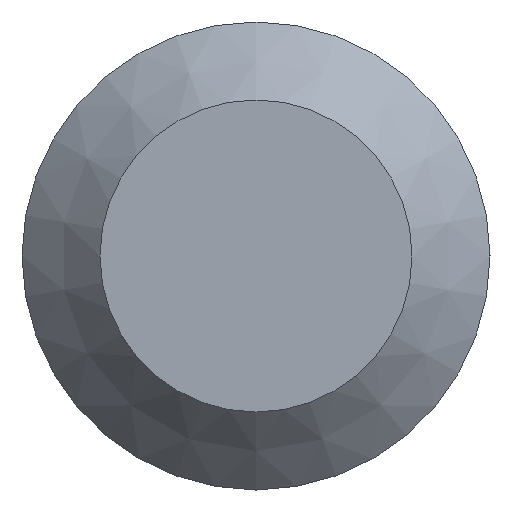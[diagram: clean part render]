
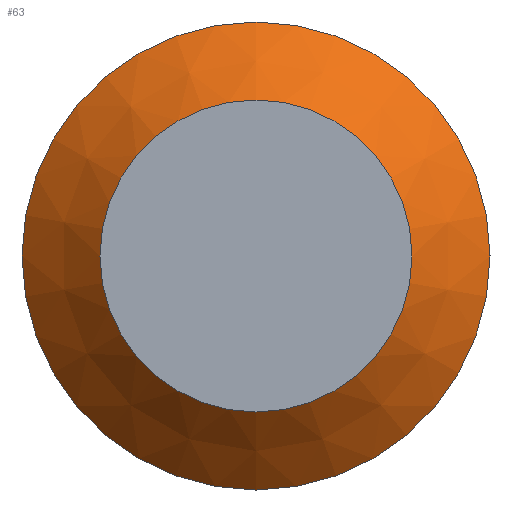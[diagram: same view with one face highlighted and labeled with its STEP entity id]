
A CAD part, left-side view. The second image highlights one B-rep face of the part: STEP entity #63.
In plain terms, the highlighted conical face has half-angle 45 degrees and reference radius 1 mm.
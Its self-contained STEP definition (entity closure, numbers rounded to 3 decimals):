
#20=CONICAL_SURFACE('',#83,1.,0.785);
#26=ORIENTED_EDGE('',*,*,#33,.F.);
#27=ORIENTED_EDGE('',*,*,#32,.T.);
#32=EDGE_CURVE('',#36,#36,#40,.T.);
#33=EDGE_CURVE('',#37,#37,#41,.T.);
#36=VERTEX_POINT('',#114);
#37=VERTEX_POINT('',#117);
#40=CIRCLE('',#82,1.);
#41=CIRCLE('',#84,1.5);
#46=EDGE_LOOP('',(#26));
#47=EDGE_LOOP('',(#27));
#54=FACE_BOUND('',#46,.T.);
#55=FACE_BOUND('',#47,.T.);
#63=ADVANCED_FACE('',(#54,#55),#20,.T.);
#82=AXIS2_PLACEMENT_3D('',#113,#96,#97);
#83=AXIS2_PLACEMENT_3D('',#115,#98,#99);
#84=AXIS2_PLACEMENT_3D('',#116,#100,#101);
#96=DIRECTION('',(1.,0.,0.));
#97=DIRECTION('',(0.,0.,-1.));
#98=DIRECTION('',(1.,0.,0.));
#99=DIRECTION('',(0.,0.,-1.));
#100=DIRECTION('',(1.,0.,0.));
#101=DIRECTION('',(0.,0.,-1.));
#113=CARTESIAN_POINT('',(-0.07,0.,0.));
#114=CARTESIAN_POINT('',(-0.07,0.,-1.));
#115=CARTESIAN_POINT('',(-0.07,0.,0.));
#116=CARTESIAN_POINT('',(0.43,0.,0.));
#117=CARTESIAN_POINT('',(0.43,0.,-1.5));
